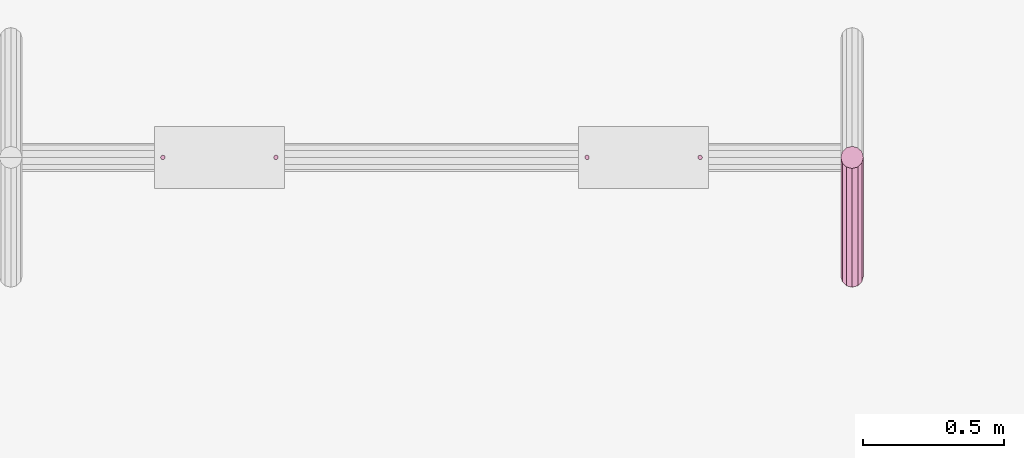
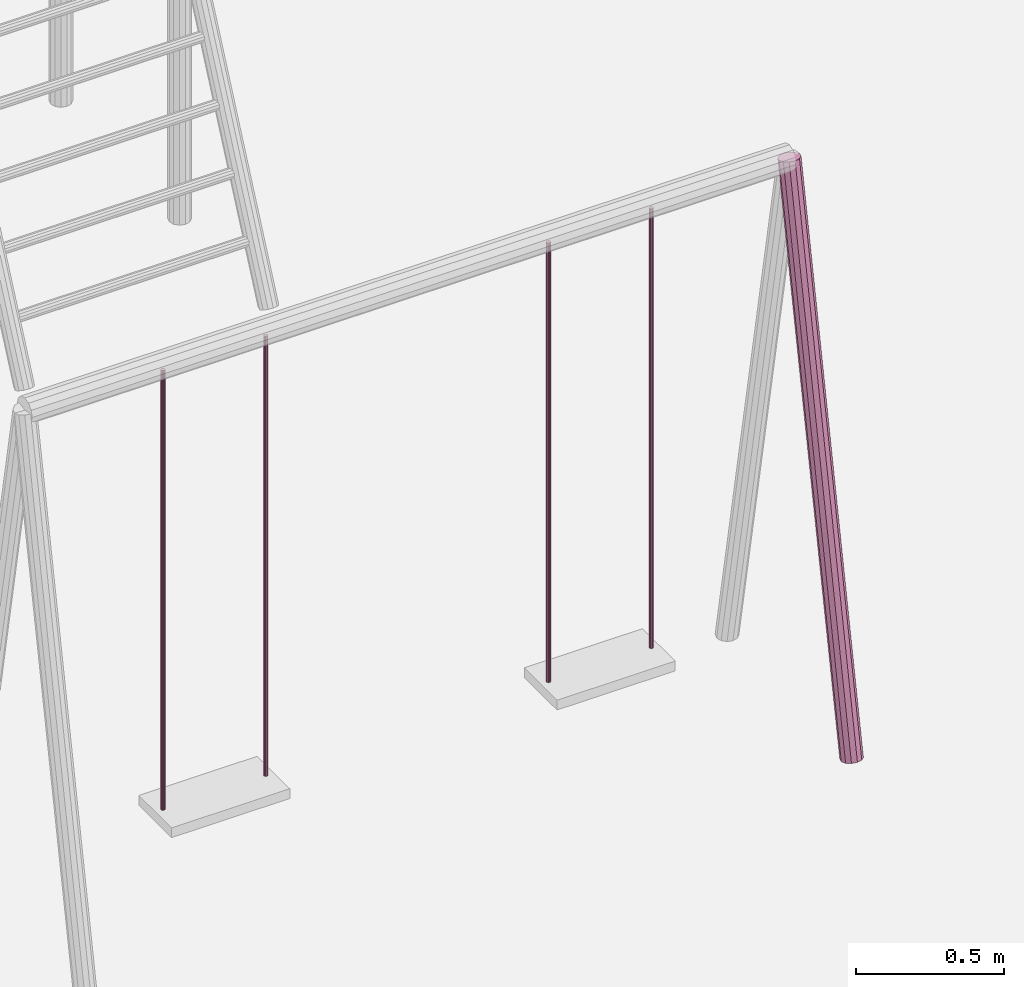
# One storey, part 145 of 177: 5 furnishings.
"""IFC4 building model written with IfcOpenShell, lengths in metres."""

from ifc_helpers import new_model, si_unit, origin, origin_with_axes, place, context, subcontext, project, spatial, triangles, element, save


model = new_model("IFC4")

# Units and contexts
model_context = context("Model", 3, precision=1e-05, world=origin_with_axes())
body_context = subcontext(model_context, "Body", "Model", "MODEL_VIEW")
ifc_project = project(units=[si_unit("LENGTHUNIT", "METRE"), si_unit("AREAUNIT", "SQUARE_METRE"), si_unit("VOLUMEUNIT", "CUBIC_METRE"), si_unit("PLANEANGLEUNIT", "RADIAN")], contexts=[model_context])

# Site, building, storey
site_placement = place(None, origin_with_axes())
site = spatial("IfcSite", under=ifc_project, at=site_placement, Name="Predio Los Mangos - Morales, San Martín", CompositionType="ELEMENT")
building_placement = place(site_placement, origin())
building = spatial("IfcBuilding", under=site, at=building_placement, Name="Hogar de Refugio Temporal", CompositionType="ELEMENT")
storey_placement = place(building_placement, origin())
storey = spatial("IfcBuildingStorey", under=building, at=storey_placement, Name="NIVEL 1 (NPT +0.00)", CompositionType="ELEMENT", Elevation=0.0)

# Furnishings
furnishing_1_placement = place(storey_placement, origin())
element("IfcFurnishingElement", 1, at=furnishing_1_placement, inside=storey, Name="columpio_pata", ObjectType="Mobiliario exterior / juegos", context=body_context, shape_type="Tessellation", body=[
    triangles([(35.86, 79.2847, 0.1374), (35.86, 79.7047, 2.3574), (35.84, 79.29, 0.1364), (35.84, 79.71, 2.3564), (35.8254, 79.3043, 0.1337), (35.8254, 79.7243, 2.3537), (35.82, 79.324, 0.13), (35.82, 79.744, 2.35), (35.8254, 79.3436, 0.1263), (35.8254, 79.7636, 2.3463), (35.84, 79.358, 0.1236), (35.84, 79.778, 2.3436), (35.86, 79.3633, 0.1226), (35.86, 79.7833, 2.3426), (35.88, 79.358, 0.1236), (35.88, 79.778, 2.3436), (35.8946, 79.3436, 0.1263), (35.8946, 79.7636, 2.3463), (35.9, 79.324, 0.13), (35.9, 79.744, 2.35), (35.8946, 79.3043, 0.1337), (35.8946, 79.7243, 2.3537), (35.88, 79.29, 0.1364), (35.88, 79.71, 2.3564)], [[1, 2, 4], [1, 4, 3], [3, 4, 6], [3, 6, 5], [5, 6, 8], [5, 8, 7], [7, 8, 10], [7, 10, 9], [9, 10, 12], [9, 12, 11], [11, 12, 14], [11, 14, 13], [13, 14, 16], [13, 16, 15], [15, 16, 18], [15, 18, 17], [17, 18, 20], [17, 20, 19], [19, 20, 22], [19, 22, 21], [6, 4, 2], [2, 24, 22], [22, 20, 18], [18, 16, 14], [14, 12, 10], [10, 8, 6], [6, 2, 22], [22, 18, 14], [14, 10, 6], [22, 14, 6], [21, 22, 24], [21, 24, 23], [23, 24, 2], [23, 2, 1], [23, 1, 3], [3, 5, 7], [7, 9, 11], [11, 13, 15], [15, 17, 19], [19, 21, 23], [23, 3, 7], [7, 11, 15], [15, 19, 23], [7, 15, 23]]),
])
furnishing_2_placement = place(storey_placement, origin())
element("IfcFurnishingElement", 2, at=furnishing_2_placement, inside=storey, Name="cadena", ObjectType="Mobiliario exterior / juegos", context=body_context, shape_type="Tessellation", body=[
    triangles([(33.4225, 79.736, 0.52), (33.4225, 79.736, 2.33), (33.4185, 79.7371, 0.52), (33.4185, 79.7371, 2.33), (33.4156, 79.74, 0.52), (33.4156, 79.74, 2.33), (33.4145, 79.744, 0.52), (33.4145, 79.744, 2.33), (33.4156, 79.748, 0.52), (33.4156, 79.748, 2.33), (33.4185, 79.7509, 0.52), (33.4185, 79.7509, 2.33), (33.4225, 79.752, 0.52), (33.4225, 79.752, 2.33), (33.4265, 79.7509, 0.52), (33.4265, 79.7509, 2.33), (33.4294, 79.748, 0.52), (33.4294, 79.748, 2.33), (33.4305, 79.744, 0.52), (33.4305, 79.744, 2.33), (33.4294, 79.74, 0.52), (33.4294, 79.74, 2.33), (33.4265, 79.7371, 0.52), (33.4265, 79.7371, 2.33)], [[1, 2, 4], [1, 4, 3], [3, 4, 6], [3, 6, 5], [5, 6, 8], [5, 8, 7], [7, 8, 10], [7, 10, 9], [9, 10, 12], [9, 12, 11], [11, 12, 14], [11, 14, 13], [13, 14, 16], [13, 16, 15], [15, 16, 18], [15, 18, 17], [17, 18, 20], [17, 20, 19], [19, 20, 22], [19, 22, 21], [6, 4, 2], [2, 24, 22], [22, 20, 18], [18, 16, 14], [14, 12, 10], [10, 8, 6], [6, 2, 22], [22, 18, 14], [14, 10, 6], [22, 14, 6], [21, 22, 24], [21, 24, 23], [23, 24, 2], [23, 2, 1], [23, 1, 3], [3, 5, 7], [7, 9, 11], [11, 13, 15], [15, 17, 19], [19, 21, 23], [23, 3, 7], [7, 11, 15], [15, 19, 23], [7, 15, 23]]),
])
furnishing_3_placement = place(storey_placement, origin())
element("IfcFurnishingElement", 3, at=furnishing_3_placement, inside=storey, Name="cadena", ObjectType="Mobiliario exterior / juegos", context=body_context, shape_type="Tessellation", body=[
    triangles([(33.8225, 79.736, 0.52), (33.8225, 79.736, 2.33), (33.8185, 79.7371, 0.52), (33.8185, 79.7371, 2.33), (33.8156, 79.74, 0.52), (33.8156, 79.74, 2.33), (33.8145, 79.744, 0.52), (33.8145, 79.744, 2.33), (33.8156, 79.748, 0.52), (33.8156, 79.748, 2.33), (33.8185, 79.7509, 0.52), (33.8185, 79.7509, 2.33), (33.8225, 79.752, 0.52), (33.8225, 79.752, 2.33), (33.8265, 79.7509, 0.52), (33.8265, 79.7509, 2.33), (33.8294, 79.748, 0.52), (33.8294, 79.748, 2.33), (33.8305, 79.744, 0.52), (33.8305, 79.744, 2.33), (33.8294, 79.74, 0.52), (33.8294, 79.74, 2.33), (33.8265, 79.7371, 0.52), (33.8265, 79.7371, 2.33)], [[1, 2, 4], [1, 4, 3], [3, 4, 6], [3, 6, 5], [5, 6, 8], [5, 8, 7], [7, 8, 10], [7, 10, 9], [9, 10, 12], [9, 12, 11], [11, 12, 14], [11, 14, 13], [13, 14, 16], [13, 16, 15], [15, 16, 18], [15, 18, 17], [17, 18, 20], [17, 20, 19], [19, 20, 22], [19, 22, 21], [6, 4, 2], [2, 24, 22], [22, 20, 18], [18, 16, 14], [14, 12, 10], [10, 8, 6], [6, 2, 22], [22, 18, 14], [14, 10, 6], [22, 14, 6], [21, 22, 24], [21, 24, 23], [23, 24, 2], [23, 2, 1], [23, 1, 3], [3, 5, 7], [7, 9, 11], [11, 13, 15], [15, 17, 19], [19, 21, 23], [23, 3, 7], [7, 11, 15], [15, 19, 23], [7, 15, 23]]),
])
furnishing_4_placement = place(storey_placement, origin())
element("IfcFurnishingElement", 4, at=furnishing_4_placement, inside=storey, Name="cadena", ObjectType="Mobiliario exterior / juegos", context=body_context, shape_type="Tessellation", body=[
    triangles([(34.9225, 79.736, 0.52), (34.9225, 79.736, 2.33), (34.9185, 79.7371, 0.52), (34.9185, 79.7371, 2.33), (34.9156, 79.74, 0.52), (34.9156, 79.74, 2.33), (34.9145, 79.744, 0.52), (34.9145, 79.744, 2.33), (34.9156, 79.748, 0.52), (34.9156, 79.748, 2.33), (34.9185, 79.7509, 0.52), (34.9185, 79.7509, 2.33), (34.9225, 79.752, 0.52), (34.9225, 79.752, 2.33), (34.9265, 79.7509, 0.52), (34.9265, 79.7509, 2.33), (34.9294, 79.748, 0.52), (34.9294, 79.748, 2.33), (34.9305, 79.744, 0.52), (34.9305, 79.744, 2.33), (34.9294, 79.74, 0.52), (34.9294, 79.74, 2.33), (34.9265, 79.7371, 0.52), (34.9265, 79.7371, 2.33)], [[1, 2, 4], [1, 4, 3], [3, 4, 6], [3, 6, 5], [5, 6, 8], [5, 8, 7], [7, 8, 10], [7, 10, 9], [9, 10, 12], [9, 12, 11], [11, 12, 14], [11, 14, 13], [13, 14, 16], [13, 16, 15], [15, 16, 18], [15, 18, 17], [17, 18, 20], [17, 20, 19], [19, 20, 22], [19, 22, 21], [6, 4, 2], [2, 24, 22], [22, 20, 18], [18, 16, 14], [14, 12, 10], [10, 8, 6], [6, 2, 22], [22, 18, 14], [14, 10, 6], [22, 14, 6], [21, 22, 24], [21, 24, 23], [23, 24, 2], [23, 2, 1], [23, 1, 3], [3, 5, 7], [7, 9, 11], [11, 13, 15], [15, 17, 19], [19, 21, 23], [23, 3, 7], [7, 11, 15], [15, 19, 23], [7, 15, 23]]),
])
furnishing_5_placement = place(storey_placement, origin())
element("IfcFurnishingElement", 5, at=furnishing_5_placement, inside=storey, Name="cadena", ObjectType="Mobiliario exterior / juegos", context=body_context, shape_type="Tessellation", body=[
    triangles([(35.3225, 79.736, 0.52), (35.3225, 79.736, 2.33), (35.3185, 79.7371, 0.52), (35.3185, 79.7371, 2.33), (35.3156, 79.74, 0.52), (35.3156, 79.74, 2.33), (35.3145, 79.744, 0.52), (35.3145, 79.744, 2.33), (35.3156, 79.748, 0.52), (35.3156, 79.748, 2.33), (35.3185, 79.7509, 0.52), (35.3185, 79.7509, 2.33), (35.3225, 79.752, 0.52), (35.3225, 79.752, 2.33), (35.3265, 79.7509, 0.52), (35.3265, 79.7509, 2.33), (35.3294, 79.748, 0.52), (35.3294, 79.748, 2.33), (35.3305, 79.744, 0.52), (35.3305, 79.744, 2.33), (35.3294, 79.74, 0.52), (35.3294, 79.74, 2.33), (35.3265, 79.7371, 0.52), (35.3265, 79.7371, 2.33)], [[1, 2, 4], [1, 4, 3], [3, 4, 6], [3, 6, 5], [5, 6, 8], [5, 8, 7], [7, 8, 10], [7, 10, 9], [9, 10, 12], [9, 12, 11], [11, 12, 14], [11, 14, 13], [13, 14, 16], [13, 16, 15], [15, 16, 18], [15, 18, 17], [17, 18, 20], [17, 20, 19], [19, 20, 22], [19, 22, 21], [6, 4, 2], [2, 24, 22], [22, 20, 18], [18, 16, 14], [14, 12, 10], [10, 8, 6], [6, 2, 22], [22, 18, 14], [14, 10, 6], [22, 14, 6], [21, 22, 24], [21, 24, 23], [23, 24, 2], [23, 2, 1], [23, 1, 3], [3, 5, 7], [7, 9, 11], [11, 13, 15], [15, 17, 19], [19, 21, 23], [23, 3, 7], [7, 11, 15], [15, 19, 23], [7, 15, 23]]),
])

save(model, "model.ifc")
